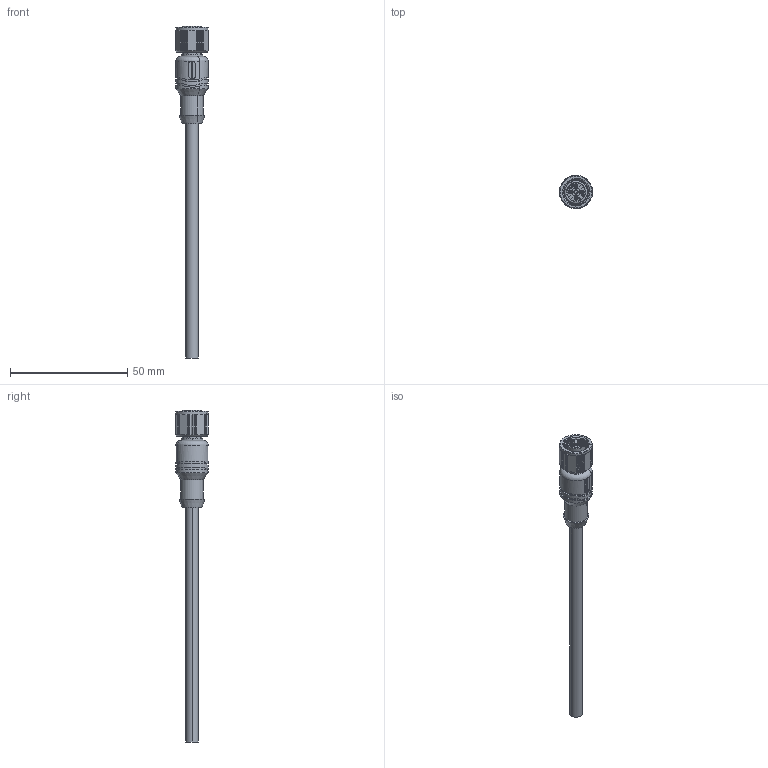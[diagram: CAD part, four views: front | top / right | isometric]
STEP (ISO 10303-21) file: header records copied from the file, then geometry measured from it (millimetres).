
FILE_DESCRIPTION (( 'STEP AP214' ), '1' );
FILE_NAME ('KSTG M12.STEP', '2026-10-13T07:34:50', ( '' ), ( '' ), 'SwSTEP 2.0', 'SolidWorks 2024', '' );
FILE_SCHEMA (( 'AUTOMOTIVE_DESIGN' ));
Length unit declared in the file: millimetre
Products named in the file (1): KSTG M12
Bounding box: 14.5 x 14 x 141.7 mm (x, y, z)
Volume: 6608.8 mm3; surface area: 5274.4 mm2
Topology: 1 solids, 9 shells, 808 faces, 2080 edges, 1323 vertices
Faces by surface type: plane 421, cylinder 206, cone 89, bspline 60, torus 32
Entity records: 31641 total; most frequent: CARTESIAN_POINT 8430, ORIENTED_EDGE 4128, DIRECTION 3722, EDGE_CURVE 2064, VERTEX_POINT 1323, AXIS2_PLACEMENT_3D 1267, VECTOR 1188, LINE 1188
